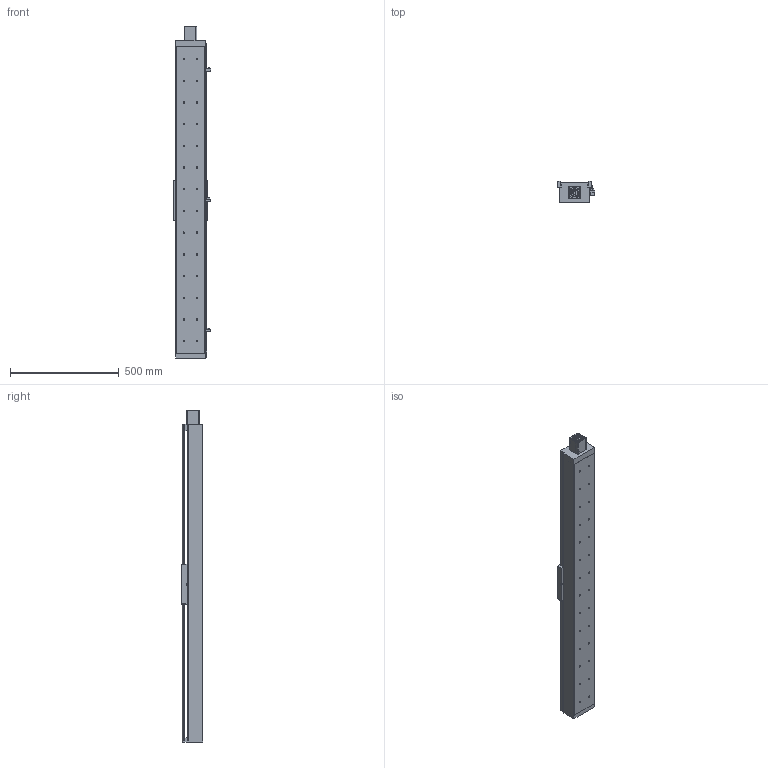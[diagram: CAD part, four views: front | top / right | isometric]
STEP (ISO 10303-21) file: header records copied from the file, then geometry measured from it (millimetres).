
FILE_DESCRIPTION((''),'2;1');
FILE_NAME('E:\libraries\UIA actuator library 2009\standard actuator\UIA136 ball screw 25\UIA136R15NDC-_ _ _-R25_ _, stp file 27Apr16\UIA136R15NDC-1200-R25_ _-M60-P13-C10-S.stp','2016-04-28T17:27:27',('h029'),(''),'Autodesk Inventor 11','Autodesk Inventor 11','');
FILE_SCHEMA(('AUTOMOTIVE_DESIGN { 1 0 10303 214 1 1 1 1 }'));
Length unit declared in the file: millimetre
Products named in the file (10): UIA136R15NDC-1200; UIA136R15NDC-body; motor mount F60; SOH-32C; SOH-32C-3; SOH-32C-1; SOH-32C-2; Carriage; Sensor Switch; sensor rail
Assembly tree (9 placements, depth 3):
  UIA136R15NDC-1200
    UIA136R15NDC-body
    motor mount F60
    SOH-32C
      SOH-32C-3
      SOH-32C-1
      SOH-32C-2
    Carriage
    Sensor Switch
    sensor rail
Bounding box: 174.5 x 98 x 1530 mm (x, y, z)
Volume: 5528720.3 mm3; surface area: 1566931.9 mm2
Topology: 8 solids, 8 shells, 544 faces, 1415 edges, 926 vertices
Faces by surface type: plane 324, bspline 170, cylinder 46, cone 4
Full cylindrical faces by diameter (mm): 2.459 x2, 3.242 x2, 4.5 x2, 7 x4, 7.5 x2, 14 x3, 17 x1, 32 x3, 37 x1, 50.3 x1, 50.5 x1
Entity records: 17780 total; most frequent: CARTESIAN_POINT 5300, ORIENTED_EDGE 2392, DIRECTION 2346, EDGE_CURVE 1196, VERTEX_POINT 862, EDGE_LOOP 848, VECTOR 816, LINE 816
